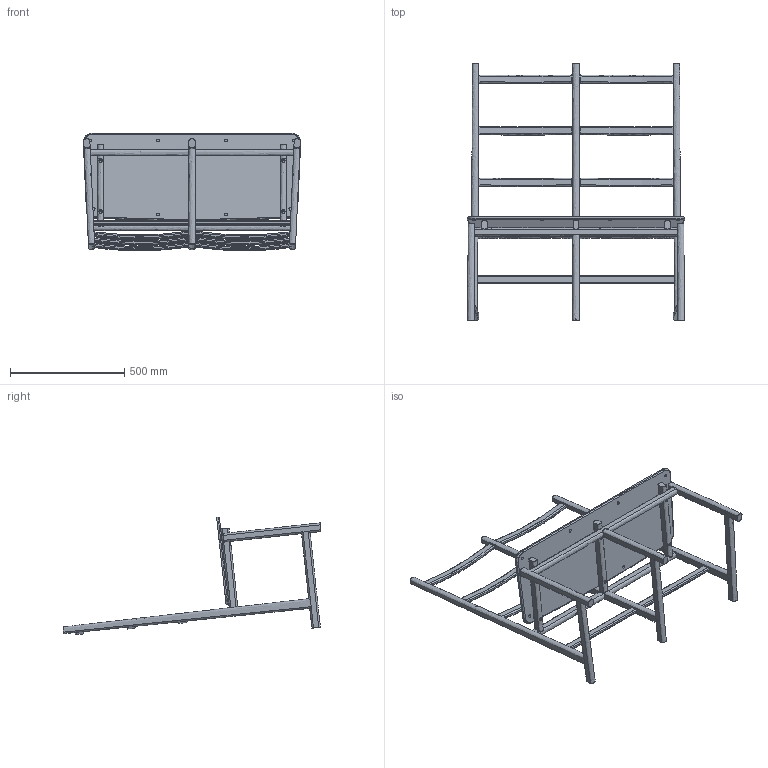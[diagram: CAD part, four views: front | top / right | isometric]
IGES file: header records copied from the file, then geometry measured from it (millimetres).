
Start section: SolidWorks IGES file using analytic representation for surfaces
Global section: file name: C:\Users\Kuma\Desktop\igs\763B Shaker Bench_va_2016-04-08.IGS; native system: SolidWorks 2016; preprocessor: SolidWorks 2016; author: kuma; date: 160408.130917; units: millimetre
Bounding box: 951.16 x 1127.76 x 514.62 mm (x, y, z)
Surface area: 1999610.4 mm2 (no closed solid volume)
Topology: 0 solids, 0 shells, 290 faces, 5170 edges, 5170 vertices
Faces by surface type: bspline 237, revolution 53
